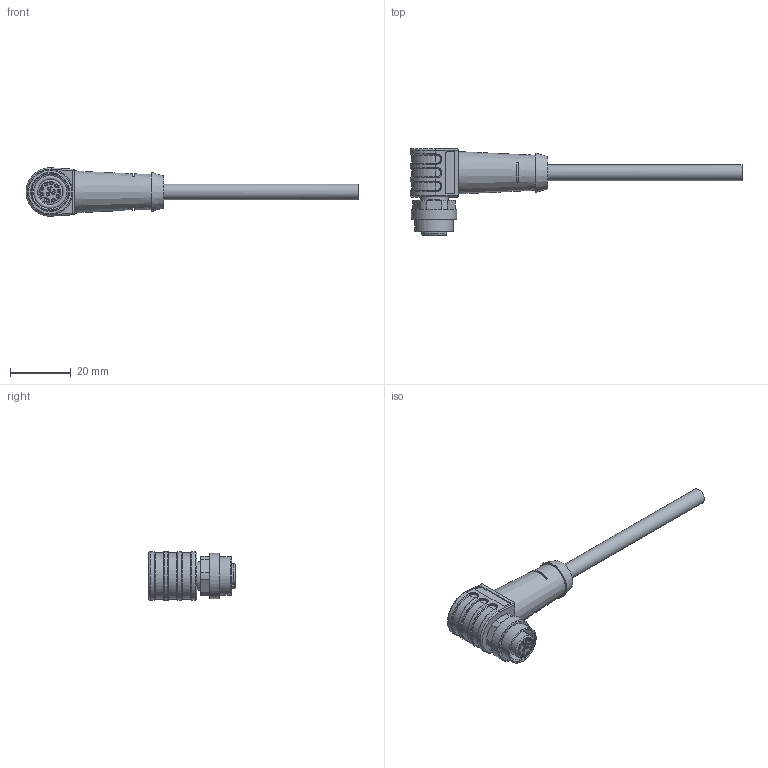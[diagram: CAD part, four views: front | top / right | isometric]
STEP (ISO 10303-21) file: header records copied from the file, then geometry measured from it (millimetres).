
FILE_DESCRIPTION(/* description */ (''),/* implementation_level */ '2;1');
FILE_NAME(/* name */ 'C:\#Vault-WorkDir\Konstruktions-Dokumente\Projekte\Zubehör allgemein\153-13644_C L12_3FW-S-xM-PUR.stp',/* time_stamp */ '2019-11-06T12:00:21+01:00',/* author */ ('SensoPart'),/* organization */ ('SensoPart'),/* preprocessor_version */ 'ST-DEVELOPER v17',/* originating_system */ 'Autodesk Inventor 2018',/* authorisation */ '');
FILE_SCHEMA (('AUTOMOTIVE_DESIGN { 1 0 10303 214 3 1 1 }'));
Length unit declared in the file: millimetre
Products named in the file (1): GH-ENG-0030290
Bounding box: 109.67 x 28.7 x 15.97 mm (x, y, z)
Volume: 9877.1 mm3; surface area: 4925 mm2
Topology: 1 solids, 1 shells, 399 faces, 1025 edges, 672 vertices
Faces by surface type: plane 150, bspline 116, cylinder 80, torus 29, cone 24
Full cylindrical faces by diameter (mm): 0.7 x12, 5.2 x1, 9.3 x1, 10.95 x1, 12.3 x1, 12.8 x1, 15 x1
Entity records: 13599 total; most frequent: CARTESIAN_POINT 4249, ORIENTED_EDGE 2050, DIRECTION 1738, EDGE_CURVE 1025, VERTEX_POINT 672, AXIS2_PLACEMENT_3D 617, LINE 504, VECTOR 504
